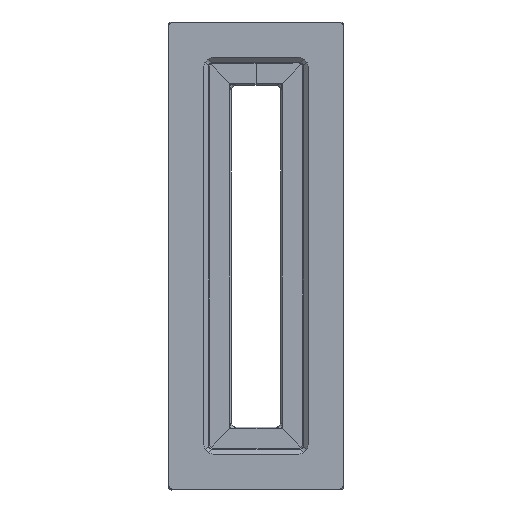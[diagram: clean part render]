
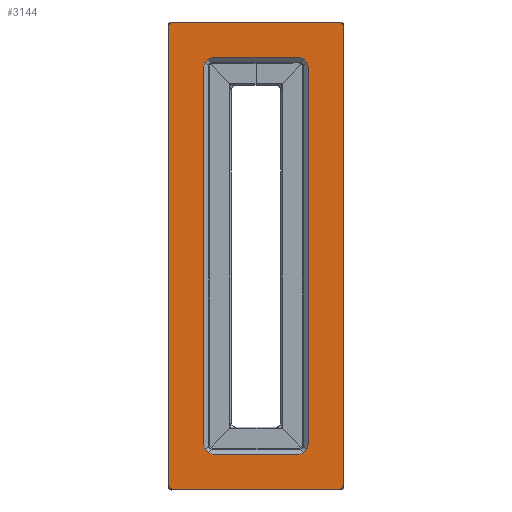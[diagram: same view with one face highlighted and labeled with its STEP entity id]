
A CAD part, top view. The second image highlights one B-rep face of the part: STEP entity #3144.
In plain terms, the highlighted planar face has unit normal (0, 0, 1).
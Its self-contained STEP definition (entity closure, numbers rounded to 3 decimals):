
#312 = CARTESIAN_POINT ( 'NONE',  ( -9., 12., 0. ) ) ;
#410 = AXIS2_PLACEMENT_3D ( 'NONE', #8451, #7621, #1248 ) ;
#446 = VERTEX_POINT ( 'NONE', #2471 ) ;
#528 = EDGE_CURVE ( 'NONE', #8630, #10638, #5694, .T. ) ;
#674 = CIRCLE ( 'NONE', #6416, 1. ) ;
#715 = EDGE_CURVE ( 'NONE', #8741, #5291, #674, .T. ) ;
#753 = ORIENTED_EDGE ( 'NONE', *, *, #7764, .T. ) ;
#799 = CARTESIAN_POINT ( 'NONE',  ( -14., 6., 0. ) ) ;
#825 = CIRCLE ( 'NONE', #9233, 1. ) ;
#866 = CARTESIAN_POINT ( 'NONE',  ( -9., 12., 0. ) ) ;
#886 = DIRECTION ( 'NONE',  ( -1., 0., 0. ) ) ;
#989 = CARTESIAN_POINT ( 'NONE',  ( -15., 5., 0. ) ) ;
#1007 = LINE ( 'NONE', #11183, #2244 ) ;
#1026 = DIRECTION ( 'NONE',  ( 0., -1., 0. ) ) ;
#1182 = EDGE_CURVE ( 'NONE', #10207, #4885, #9312, .T. ) ;
#1248 = DIRECTION ( 'NONE',  ( -1., 0., 0. ) ) ;
#1292 = EDGE_CURVE ( 'NONE', #10638, #10207, #2637, .T. ) ;
#1314 = DIRECTION ( 'NONE',  ( -1., 0., 0. ) ) ;
#1369 = CARTESIAN_POINT ( 'NONE',  ( 7., 0., 0. ) ) ;
#1403 = DIRECTION ( 'NONE',  ( -1., 0., 0. ) ) ;
#1459 = CARTESIAN_POINT ( 'NONE',  ( 14., -73., 0. ) ) ;
#1519 = CIRCLE ( 'NONE', #5244, 1. ) ;
#1648 = CARTESIAN_POINT ( 'NONE',  ( 14., 6., 0. ) ) ;
#1667 = CARTESIAN_POINT ( 'NONE',  ( -14., 5., 0. ) ) ;
#1677 = AXIS2_PLACEMENT_3D ( 'NONE', #7903, #10688, #886 ) ;
#1827 = LINE ( 'NONE', #4068, #8373 ) ;
#1914 = AXIS2_PLACEMENT_3D ( 'NONE', #6438, #10062, #9090 ) ;
#2244 = VECTOR ( 'NONE', #1314, 1000. ) ;
#2295 = DIRECTION ( 'NONE',  ( 1., 0., 0. ) ) ;
#2364 = DIRECTION ( 'NONE',  ( 0., 0., 1. ) ) ;
#2471 = CARTESIAN_POINT ( 'NONE',  ( 15., 5., 0. ) ) ;
#2544 = EDGE_CURVE ( 'NONE', #8631, #8630, #11121, .T. ) ;
#2567 = ORIENTED_EDGE ( 'NONE', *, *, #1182, .F. ) ;
#2637 = CIRCLE ( 'NONE', #410, 2. ) ;
#2712 = ORIENTED_EDGE ( 'NONE', *, *, #1292, .F. ) ;
#2871 = ORIENTED_EDGE ( 'NONE', *, *, #2969, .T. ) ;
#2885 = ORIENTED_EDGE ( 'NONE', *, *, #6315, .T. ) ;
#2969 = EDGE_CURVE ( 'NONE', #11287, #7301, #825, .T. ) ;
#2980 = ORIENTED_EDGE ( 'NONE', *, *, #4272, .F. ) ;
#3045 = ORIENTED_EDGE ( 'NONE', *, *, #9291, .F. ) ;
#3068 = DIRECTION ( 'NONE',  ( 0., -1., 0. ) ) ;
#3069 = AXIS2_PLACEMENT_3D ( 'NONE', #8448, #3951, #3068 ) ;
#3106 = EDGE_LOOP ( 'NONE', ( #2567, #2712, #8910, #5935, #7595, #3045, #2980, #8329 ) ) ;
#3144 = ADVANCED_FACE ( 'NONE', ( #9058, #6954 ), #3897, .T. ) ;
#3422 = CARTESIAN_POINT ( 'NONE',  ( 7., -68., 0. ) ) ;
#3432 = DIRECTION ( 'NONE',  ( 0., -1., 0. ) ) ;
#3766 = LINE ( 'NONE', #5224, #6700 ) ;
#3777 = CARTESIAN_POINT ( 'NONE',  ( 9., -2., 0. ) ) ;
#3896 = ORIENTED_EDGE ( 'NONE', *, *, #5264, .F. ) ;
#3897 = PLANE ( 'NONE',  #11345 ) ;
#3951 = DIRECTION ( 'NONE',  ( 0., 0., -1. ) ) ;
#4068 = CARTESIAN_POINT ( 'NONE',  ( -9., -68., 0. ) ) ;
#4189 = VERTEX_POINT ( 'NONE', #989 ) ;
#4272 = EDGE_CURVE ( 'NONE', #6648, #8576, #8624, .T. ) ;
#4312 = VECTOR ( 'NONE', #9007, 1000. ) ;
#4426 = CIRCLE ( 'NONE', #3069, 1. ) ;
#4631 = CARTESIAN_POINT ( 'NONE',  ( 15., 12., 0. ) ) ;
#4788 = CARTESIAN_POINT ( 'NONE',  ( -7., -68., 0. ) ) ;
#4810 = EDGE_CURVE ( 'NONE', #10352, #446, #4426, .T. ) ;
#4885 = VERTEX_POINT ( 'NONE', #7619 ) ;
#4917 = DIRECTION ( 'NONE',  ( 1., 0., 0. ) ) ;
#4972 = DIRECTION ( 'NONE',  ( 0., 1., 0. ) ) ;
#5046 = ORIENTED_EDGE ( 'NONE', *, *, #4810, .F. ) ;
#5071 = DIRECTION ( 'NONE',  ( -1., 0., 0. ) ) ;
#5224 = CARTESIAN_POINT ( 'NONE',  ( -15., 12., 0. ) ) ;
#5244 = AXIS2_PLACEMENT_3D ( 'NONE', #1667, #8808, #9698 ) ;
#5264 = EDGE_CURVE ( 'NONE', #446, #7301, #6926, .T. ) ;
#5291 = VERTEX_POINT ( 'NONE', #7305 ) ;
#5360 = CARTESIAN_POINT ( 'NONE',  ( 14., -74., 0. ) ) ;
#5634 = EDGE_CURVE ( 'NONE', #6985, #8631, #1827, .T. ) ;
#5694 = LINE ( 'NONE', #9432, #9204 ) ;
#5935 = ORIENTED_EDGE ( 'NONE', *, *, #2544, .F. ) ;
#6261 = VECTOR ( 'NONE', #9879, 1000. ) ;
#6276 = CARTESIAN_POINT ( 'NONE',  ( -21., 6., 0. ) ) ;
#6315 = EDGE_CURVE ( 'NONE', #10352, #6348, #6687, .T. ) ;
#6348 = VERTEX_POINT ( 'NONE', #799 ) ;
#6416 = AXIS2_PLACEMENT_3D ( 'NONE', #9864, #9491, #7655 ) ;
#6438 = CARTESIAN_POINT ( 'NONE',  ( -7., -2., 0. ) ) ;
#6569 = ORIENTED_EDGE ( 'NONE', *, *, #6627, .F. ) ;
#6627 = EDGE_CURVE ( 'NONE', #11287, #5291, #1007, .T. ) ;
#6648 = VERTEX_POINT ( 'NONE', #8599 ) ;
#6687 = LINE ( 'NONE', #6276, #4312 ) ;
#6700 = VECTOR ( 'NONE', #3432, 1000. ) ;
#6926 = LINE ( 'NONE', #4631, #10999 ) ;
#6954 = FACE_BOUND ( 'NONE', #3106, .T. ) ;
#6985 = VERTEX_POINT ( 'NONE', #4788 ) ;
#7140 = ORIENTED_EDGE ( 'NONE', *, *, #715, .T. ) ;
#7301 = VERTEX_POINT ( 'NONE', #9427 ) ;
#7305 = CARTESIAN_POINT ( 'NONE',  ( -14., -74., 0. ) ) ;
#7506 = EDGE_CURVE ( 'NONE', #4885, #6648, #9349, .T. ) ;
#7595 = ORIENTED_EDGE ( 'NONE', *, *, #5634, .F. ) ;
#7619 = CARTESIAN_POINT ( 'NONE',  ( -7., 0., 0. ) ) ;
#7621 = DIRECTION ( 'NONE',  ( 0., 0., 1. ) ) ;
#7631 = VECTOR ( 'NONE', #5071, 1000. ) ;
#7655 = DIRECTION ( 'NONE',  ( 0., -1., 0. ) ) ;
#7764 = EDGE_CURVE ( 'NONE', #4189, #8741, #3766, .T. ) ;
#7903 = CARTESIAN_POINT ( 'NONE',  ( -7., -66., 0. ) ) ;
#8035 = CARTESIAN_POINT ( 'NONE',  ( -15., -73., 0. ) ) ;
#8323 = DIRECTION ( 'NONE',  ( 0., 0., 1. ) ) ;
#8329 = ORIENTED_EDGE ( 'NONE', *, *, #7506, .F. ) ;
#8373 = VECTOR ( 'NONE', #2295, 1000. ) ;
#8448 = CARTESIAN_POINT ( 'NONE',  ( 14., 5., 0. ) ) ;
#8451 = CARTESIAN_POINT ( 'NONE',  ( 7., -2., 0. ) ) ;
#8576 = VERTEX_POINT ( 'NONE', #10537 ) ;
#8599 = CARTESIAN_POINT ( 'NONE',  ( -9., -2., 0. ) ) ;
#8624 = LINE ( 'NONE', #866, #6261 ) ;
#8630 = VERTEX_POINT ( 'NONE', #8858 ) ;
#8631 = VERTEX_POINT ( 'NONE', #3422 ) ;
#8646 = ORIENTED_EDGE ( 'NONE', *, *, #9320, .F. ) ;
#8674 = CARTESIAN_POINT ( 'NONE',  ( -9., 0., 0. ) ) ;
#8741 = VERTEX_POINT ( 'NONE', #8035 ) ;
#8808 = DIRECTION ( 'NONE',  ( 0., 0., -1. ) ) ;
#8858 = CARTESIAN_POINT ( 'NONE',  ( 9., -66., 0. ) ) ;
#8910 = ORIENTED_EDGE ( 'NONE', *, *, #528, .F. ) ;
#9007 = DIRECTION ( 'NONE',  ( -1., 0., 0. ) ) ;
#9058 = FACE_OUTER_BOUND ( 'NONE', #10234, .T. ) ;
#9090 = DIRECTION ( 'NONE',  ( -1., 0., 0. ) ) ;
#9204 = VECTOR ( 'NONE', #4972, 1000. ) ;
#9233 = AXIS2_PLACEMENT_3D ( 'NONE', #1459, #2364, #4917 ) ;
#9291 = EDGE_CURVE ( 'NONE', #8576, #6985, #11298, .T. ) ;
#9312 = LINE ( 'NONE', #8674, #7631 ) ;
#9320 = EDGE_CURVE ( 'NONE', #4189, #6348, #1519, .T. ) ;
#9349 = CIRCLE ( 'NONE', #1914, 2. ) ;
#9401 = CARTESIAN_POINT ( 'NONE',  ( 7., -66., 0. ) ) ;
#9427 = CARTESIAN_POINT ( 'NONE',  ( 15., -73., 0. ) ) ;
#9432 = CARTESIAN_POINT ( 'NONE',  ( 9., 12., 0. ) ) ;
#9491 = DIRECTION ( 'NONE',  ( 0., 0., 1. ) ) ;
#9698 = DIRECTION ( 'NONE',  ( 1., 0., 0. ) ) ;
#9864 = CARTESIAN_POINT ( 'NONE',  ( -14., -73., 0. ) ) ;
#9879 = DIRECTION ( 'NONE',  ( 0., -1., 0. ) ) ;
#10062 = DIRECTION ( 'NONE',  ( 0., 0., 1. ) ) ;
#10207 = VERTEX_POINT ( 'NONE', #1369 ) ;
#10234 = EDGE_LOOP ( 'NONE', ( #5046, #2885, #8646, #753, #7140, #6569, #2871, #3896 ) ) ;
#10261 = DIRECTION ( 'NONE',  ( 0., 0., 1. ) ) ;
#10352 = VERTEX_POINT ( 'NONE', #1648 ) ;
#10537 = CARTESIAN_POINT ( 'NONE',  ( -9., -66., 0. ) ) ;
#10638 = VERTEX_POINT ( 'NONE', #3777 ) ;
#10688 = DIRECTION ( 'NONE',  ( 0., 0., 1. ) ) ;
#10999 = VECTOR ( 'NONE', #1026, 1000. ) ;
#11057 = DIRECTION ( 'NONE',  ( 1., 0., 0. ) ) ;
#11121 = CIRCLE ( 'NONE', #11235, 2. ) ;
#11183 = CARTESIAN_POINT ( 'NONE',  ( -9., -74., 0. ) ) ;
#11235 = AXIS2_PLACEMENT_3D ( 'NONE', #9401, #10261, #1403 ) ;
#11287 = VERTEX_POINT ( 'NONE', #5360 ) ;
#11298 = CIRCLE ( 'NONE', #1677, 2. ) ;
#11345 = AXIS2_PLACEMENT_3D ( 'NONE', #312, #8323, #11057 ) ;
